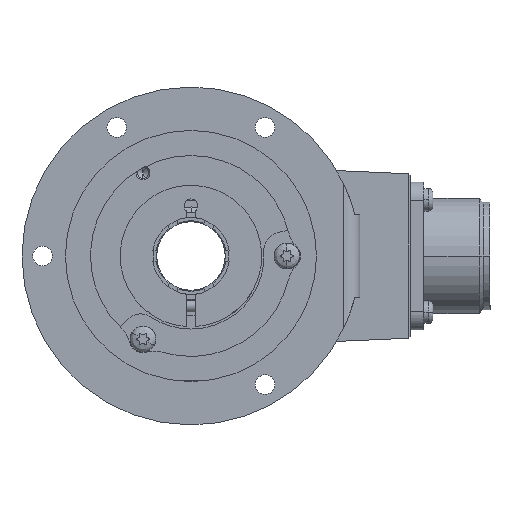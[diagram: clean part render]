
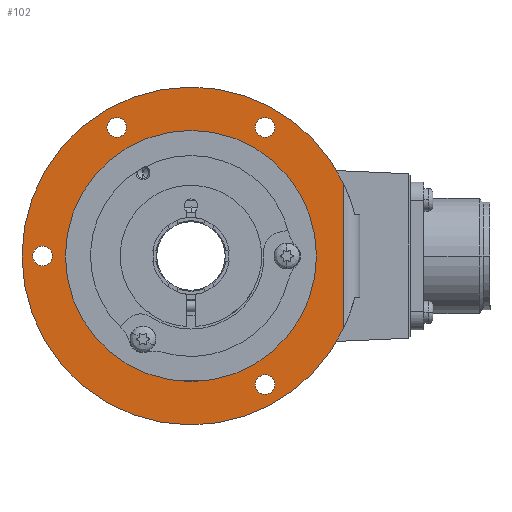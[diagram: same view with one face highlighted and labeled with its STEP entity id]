
A CAD part, left-side view. The second image highlights one B-rep face of the part: STEP entity #102.
In plain terms, the highlighted planar face has unit normal (-1, 0, 0).
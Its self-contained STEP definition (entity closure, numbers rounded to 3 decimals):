
#102 = ADVANCED_FACE ( 'NONE', ( #6134, #18713, #626, #2649, #22328, #18459 ), #7804, .T. ) ;
#150 = DIRECTION ( 'NONE',  ( 0., 0., -1. ) ) ;
#454 = CARTESIAN_POINT ( 'NONE',  ( -19.622, 57.923, 0. ) ) ;
#564 = CARTESIAN_POINT ( 'NONE',  ( -19.622, 25.423, 0. ) ) ;
#626 = FACE_OUTER_BOUND ( 'NONE', #4356, .T. ) ;
#1292 = DIRECTION ( 'NONE',  ( 0., 0., 1. ) ) ;
#1341 = DIRECTION ( 'NONE',  ( -1., 0., 0. ) ) ;
#1380 = CARTESIAN_POINT ( 'NONE',  ( -19.622, 9.173, 28.146 ) ) ;
#1683 = CIRCLE ( 'NONE', #12920, 2.15 ) ;
#2062 = CIRCLE ( 'NONE', #12195, 27.5 ) ;
#2292 = VERTEX_POINT ( 'NONE', #19975 ) ;
#2649 = FACE_BOUND ( 'NONE', #23115, .T. ) ;
#2651 = CARTESIAN_POINT ( 'NONE',  ( -19.622, 25.423, 0. ) ) ;
#3330 = DIRECTION ( 'NONE',  ( 0., 0., -1. ) ) ;
#3379 = ORIENTED_EDGE ( 'NONE', *, *, #17378, .F. ) ;
#3634 = ORIENTED_EDGE ( 'NONE', *, *, #17307, .T. ) ;
#3955 = VERTEX_POINT ( 'NONE', #19922 ) ;
#4092 = EDGE_CURVE ( 'NONE', #8802, #12304, #13267, .T. ) ;
#4265 = VERTEX_POINT ( 'NONE', #8996 ) ;
#4356 = EDGE_LOOP ( 'NONE', ( #11235, #3634, #9818, #5374 ) ) ;
#4599 = VERTEX_POINT ( 'NONE', #14632 ) ;
#4843 = DIRECTION ( 'NONE',  ( 0., 0., -1. ) ) ;
#4961 = CARTESIAN_POINT ( 'NONE',  ( -19.622, 25.423, 0. ) ) ;
#5374 = ORIENTED_EDGE ( 'NONE', *, *, #11935, .T. ) ;
#5474 = CARTESIAN_POINT ( 'NONE',  ( -19.622, 9.173, -25.996 ) ) ;
#6072 = EDGE_CURVE ( 'NONE', #13413, #12554, #1683, .T. ) ;
#6134 = FACE_BOUND ( 'NONE', #12447, .T. ) ;
#6159 = VERTEX_POINT ( 'NONE', #8197 ) ;
#6185 = CIRCLE ( 'NONE', #9969, 37. ) ;
#6220 = CIRCLE ( 'NONE', #11117, 37. ) ;
#6591 = CIRCLE ( 'NONE', #21578, 2.15 ) ;
#6792 = DIRECTION ( 'NONE',  ( 0., 0., -1. ) ) ;
#6883 = DIRECTION ( 'NONE',  ( -1., 0., 0. ) ) ;
#6915 = AXIS2_PLACEMENT_3D ( 'NONE', #2651, #8042, #15178 ) ;
#6948 = AXIS2_PLACEMENT_3D ( 'NONE', #16269, #18374, #17917 ) ;
#7110 = EDGE_CURVE ( 'NONE', #4265, #20271, #20110, .T. ) ;
#7804 = PLANE ( 'NONE',  #15000 ) ;
#7928 = CARTESIAN_POINT ( 'NONE',  ( -19.622, -8.077, -15.708 ) ) ;
#8042 = DIRECTION ( 'NONE',  ( -1., 0., 0. ) ) ;
#8197 = CARTESIAN_POINT ( 'NONE',  ( -19.622, 41.673, 25.996 ) ) ;
#8419 = DIRECTION ( 'NONE',  ( -1., 0., 0. ) ) ;
#8484 = VERTEX_POINT ( 'NONE', #15780 ) ;
#8538 = CIRCLE ( 'NONE', #21611, 2.15 ) ;
#8802 = VERTEX_POINT ( 'NONE', #13141 ) ;
#8930 = CIRCLE ( 'NONE', #18656, 2.15 ) ;
#8996 = CARTESIAN_POINT ( 'NONE',  ( -19.622, 9.173, 30.296 ) ) ;
#9818 = ORIENTED_EDGE ( 'NONE', *, *, #17659, .T. ) ;
#9969 = AXIS2_PLACEMENT_3D ( 'NONE', #564, #11261, #12789 ) ;
#10399 = AXIS2_PLACEMENT_3D ( 'NONE', #1380, #6883, #17218 ) ;
#10625 = DIRECTION ( 'NONE',  ( -1., 0., 0. ) ) ;
#10852 = CARTESIAN_POINT ( 'NONE',  ( -19.622, 25.423, 0. ) ) ;
#10978 = CARTESIAN_POINT ( 'NONE',  ( -19.622, 9.173, -28.146 ) ) ;
#10997 = ORIENTED_EDGE ( 'NONE', *, *, #17450, .F. ) ;
#11013 = CARTESIAN_POINT ( 'NONE',  ( -19.622, 57.923, 0. ) ) ;
#11117 = AXIS2_PLACEMENT_3D ( 'NONE', #10852, #10625, #14105 ) ;
#11235 = ORIENTED_EDGE ( 'NONE', *, *, #18422, .T. ) ;
#11261 = DIRECTION ( 'NONE',  ( -1., 0., 0. ) ) ;
#11468 = CIRCLE ( 'NONE', #6948, 2.15 ) ;
#11699 = VERTEX_POINT ( 'NONE', #21506 ) ;
#11935 = EDGE_CURVE ( 'NONE', #19376, #4599, #17361, .T. ) ;
#12125 = AXIS2_PLACEMENT_3D ( 'NONE', #22871, #15373, #6792 ) ;
#12195 = AXIS2_PLACEMENT_3D ( 'NONE', #4961, #1341, #3330 ) ;
#12304 = VERTEX_POINT ( 'NONE', #19100 ) ;
#12343 = ORIENTED_EDGE ( 'NONE', *, *, #6072, .F. ) ;
#12346 = ORIENTED_EDGE ( 'NONE', *, *, #7110, .F. ) ;
#12447 = EDGE_LOOP ( 'NONE', ( #20402, #22321 ) ) ;
#12554 = VERTEX_POINT ( 'NONE', #5474 ) ;
#12789 = DIRECTION ( 'NONE',  ( 0., 0., -1. ) ) ;
#12798 = DIRECTION ( 'NONE',  ( 0., 0., -1. ) ) ;
#12826 = CARTESIAN_POINT ( 'NONE',  ( -19.622, 9.173, -30.296 ) ) ;
#12920 = AXIS2_PLACEMENT_3D ( 'NONE', #21354, #19604, #16880 ) ;
#13141 = CARTESIAN_POINT ( 'NONE',  ( -19.622, 25.423, 27.5 ) ) ;
#13267 = CIRCLE ( 'NONE', #20384, 27.5 ) ;
#13413 = VERTEX_POINT ( 'NONE', #12826 ) ;
#13535 = CARTESIAN_POINT ( 'NONE',  ( -19.622, 25.423, 0. ) ) ;
#13595 = CIRCLE ( 'NONE', #12125, 2.15 ) ;
#14105 = DIRECTION ( 'NONE',  ( 0., 0., -1. ) ) ;
#14563 = CARTESIAN_POINT ( 'NONE',  ( -19.622, 25.423, 37. ) ) ;
#14620 = DIRECTION ( 'NONE',  ( 0., 0., -1. ) ) ;
#14632 = CARTESIAN_POINT ( 'NONE',  ( -19.622, -8.077, 15.708 ) ) ;
#14718 = VECTOR ( 'NONE', #1292, 1000. ) ;
#14770 = CIRCLE ( 'NONE', #23026, 2.15 ) ;
#14943 = DIRECTION ( 'NONE',  ( -1., 0., 0. ) ) ;
#15000 = AXIS2_PLACEMENT_3D ( 'NONE', #13535, #14943, #22093 ) ;
#15178 = DIRECTION ( 'NONE',  ( 0., 0., -1. ) ) ;
#15331 = EDGE_CURVE ( 'NONE', #20271, #4265, #13595, .T. ) ;
#15373 = DIRECTION ( 'NONE',  ( -1., 0., 0. ) ) ;
#15538 = CARTESIAN_POINT ( 'NONE',  ( -19.622, 41.673, 28.146 ) ) ;
#15780 = CARTESIAN_POINT ( 'NONE',  ( -19.622, 57.923, 2.15 ) ) ;
#15891 = DIRECTION ( 'NONE',  ( 0., 0., -1. ) ) ;
#16234 = DIRECTION ( 'NONE',  ( -1., 0., 0. ) ) ;
#16269 = CARTESIAN_POINT ( 'NONE',  ( -19.622, 41.673, 28.146 ) ) ;
#16880 = DIRECTION ( 'NONE',  ( 0., 0., -1. ) ) ;
#17218 = DIRECTION ( 'NONE',  ( 0., 0., -1. ) ) ;
#17307 = EDGE_CURVE ( 'NONE', #18579, #3955, #20028, .T. ) ;
#17336 = ORIENTED_EDGE ( 'NONE', *, *, #22127, .F. ) ;
#17361 = LINE ( 'NONE', #22872, #14718 ) ;
#17378 = EDGE_CURVE ( 'NONE', #12304, #8802, #2062, .T. ) ;
#17450 = EDGE_CURVE ( 'NONE', #6159, #11699, #14770, .T. ) ;
#17659 = EDGE_CURVE ( 'NONE', #3955, #19376, #6185, .T. ) ;
#17917 = DIRECTION ( 'NONE',  ( 0., 0., -1. ) ) ;
#17919 = DIRECTION ( 'NONE',  ( -1., 0., 0. ) ) ;
#17978 = EDGE_CURVE ( 'NONE', #11699, #6159, #11468, .T. ) ;
#18374 = DIRECTION ( 'NONE',  ( -1., 0., 0. ) ) ;
#18422 = EDGE_CURVE ( 'NONE', #4599, #18579, #6220, .T. ) ;
#18428 = CARTESIAN_POINT ( 'NONE',  ( -19.622, 9.173, 25.996 ) ) ;
#18459 = FACE_BOUND ( 'NONE', #21402, .T. ) ;
#18579 = VERTEX_POINT ( 'NONE', #14563 ) ;
#18609 = ORIENTED_EDGE ( 'NONE', *, *, #17978, .F. ) ;
#18656 = AXIS2_PLACEMENT_3D ( 'NONE', #10978, #16234, #150 ) ;
#18713 = FACE_BOUND ( 'NONE', #21263, .T. ) ;
#18768 = EDGE_LOOP ( 'NONE', ( #12346, #22801 ) ) ;
#19100 = CARTESIAN_POINT ( 'NONE',  ( -19.622, 25.423, -27.5 ) ) ;
#19376 = VERTEX_POINT ( 'NONE', #7928 ) ;
#19604 = DIRECTION ( 'NONE',  ( -1., 0., 0. ) ) ;
#19922 = CARTESIAN_POINT ( 'NONE',  ( -19.622, 25.423, -37. ) ) ;
#19975 = CARTESIAN_POINT ( 'NONE',  ( -19.622, 57.923, -2.15 ) ) ;
#20028 = CIRCLE ( 'NONE', #6915, 37. ) ;
#20063 = EDGE_CURVE ( 'NONE', #8484, #2292, #6591, .T. ) ;
#20067 = DIRECTION ( 'NONE',  ( -1., 0., 0. ) ) ;
#20110 = CIRCLE ( 'NONE', #10399, 2.15 ) ;
#20271 = VERTEX_POINT ( 'NONE', #18428 ) ;
#20384 = AXIS2_PLACEMENT_3D ( 'NONE', #21288, #8419, #15891 ) ;
#20402 = ORIENTED_EDGE ( 'NONE', *, *, #20063, .F. ) ;
#20939 = DIRECTION ( 'NONE',  ( -1., 0., 0. ) ) ;
#21263 = EDGE_LOOP ( 'NONE', ( #17336, #12343 ) ) ;
#21288 = CARTESIAN_POINT ( 'NONE',  ( -19.622, 25.423, 0. ) ) ;
#21354 = CARTESIAN_POINT ( 'NONE',  ( -19.622, 9.173, -28.146 ) ) ;
#21402 = EDGE_LOOP ( 'NONE', ( #18609, #10997 ) ) ;
#21439 = EDGE_CURVE ( 'NONE', #2292, #8484, #8538, .T. ) ;
#21506 = CARTESIAN_POINT ( 'NONE',  ( -19.622, 41.673, 30.296 ) ) ;
#21578 = AXIS2_PLACEMENT_3D ( 'NONE', #11013, #17919, #14620 ) ;
#21611 = AXIS2_PLACEMENT_3D ( 'NONE', #454, #20067, #12798 ) ;
#22093 = DIRECTION ( 'NONE',  ( 0., 0., -1. ) ) ;
#22127 = EDGE_CURVE ( 'NONE', #12554, #13413, #8930, .T. ) ;
#22321 = ORIENTED_EDGE ( 'NONE', *, *, #21439, .F. ) ;
#22328 = FACE_BOUND ( 'NONE', #18768, .T. ) ;
#22738 = ORIENTED_EDGE ( 'NONE', *, *, #4092, .F. ) ;
#22801 = ORIENTED_EDGE ( 'NONE', *, *, #15331, .F. ) ;
#22871 = CARTESIAN_POINT ( 'NONE',  ( -19.622, 9.173, 28.146 ) ) ;
#22872 = CARTESIAN_POINT ( 'NONE',  ( -19.622, -8.077, 9. ) ) ;
#23026 = AXIS2_PLACEMENT_3D ( 'NONE', #15538, #20939, #4843 ) ;
#23115 = EDGE_LOOP ( 'NONE', ( #22738, #3379 ) ) ;
